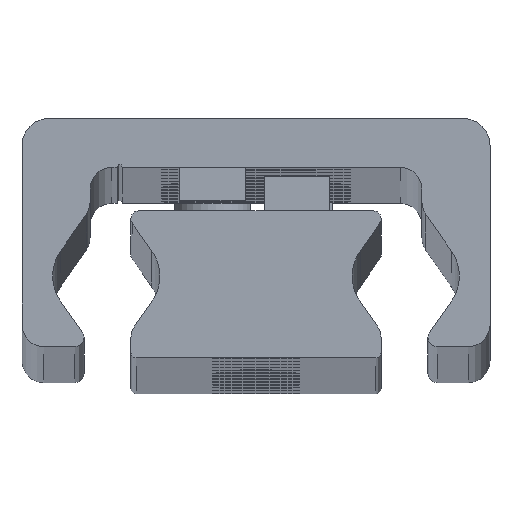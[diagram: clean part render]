
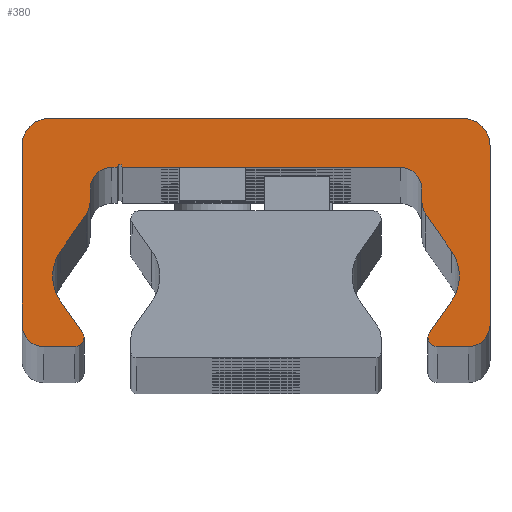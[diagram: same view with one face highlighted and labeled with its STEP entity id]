
A CAD part, top view. The second image highlights one B-rep face of the part: STEP entity #380.
In plain terms, the highlighted planar face has unit normal (0, 0, 1).
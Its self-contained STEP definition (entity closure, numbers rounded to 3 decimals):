
#380=ADVANCED_FACE('',(#1114),#1115,.T.);
#1114=FACE_OUTER_BOUND('',#1849,.T.);
#1115=PLANE('',#1850);
#1849=EDGE_LOOP('',(#4298,#4299,#4300,#4301,#4302,#4303,#4304,#4305,#4306,#4307,#4308,#4309,#4310,#4311,#4312,#4313,#4314,#4315,#4316,#4317,#4318,#4319,#4320,#4321,#4322,#4323,#4324,#4325,#4326,#4327));
#1850=AXIS2_PLACEMENT_3D('',#4328,#4329,#4330);
#4298=ORIENTED_EDGE('',*,*,#4799,.F.);
#4299=ORIENTED_EDGE('',*,*,#5142,.F.);
#4300=ORIENTED_EDGE('',*,*,#4785,.F.);
#4301=ORIENTED_EDGE('',*,*,#5141,.F.);
#4302=ORIENTED_EDGE('',*,*,#5137,.F.);
#4303=ORIENTED_EDGE('',*,*,#5134,.F.);
#4304=ORIENTED_EDGE('',*,*,#5131,.F.);
#4305=ORIENTED_EDGE('',*,*,#5128,.F.);
#4306=ORIENTED_EDGE('',*,*,#5125,.F.);
#4307=ORIENTED_EDGE('',*,*,#5122,.F.);
#4308=ORIENTED_EDGE('',*,*,#5119,.F.);
#4309=ORIENTED_EDGE('',*,*,#5116,.F.);
#4310=ORIENTED_EDGE('',*,*,#5113,.F.);
#4311=ORIENTED_EDGE('',*,*,#5110,.F.);
#4312=ORIENTED_EDGE('',*,*,#4791,.F.);
#4313=ORIENTED_EDGE('',*,*,#5108,.F.);
#4314=ORIENTED_EDGE('',*,*,#4793,.F.);
#4315=ORIENTED_EDGE('',*,*,#5107,.F.);
#4316=ORIENTED_EDGE('',*,*,#5103,.F.);
#4317=ORIENTED_EDGE('',*,*,#5100,.F.);
#4318=ORIENTED_EDGE('',*,*,#5097,.F.);
#4319=ORIENTED_EDGE('',*,*,#5094,.F.);
#4320=ORIENTED_EDGE('',*,*,#5091,.F.);
#4321=ORIENTED_EDGE('',*,*,#5088,.F.);
#4322=ORIENTED_EDGE('',*,*,#5085,.F.);
#4323=ORIENTED_EDGE('',*,*,#5082,.F.);
#4324=ORIENTED_EDGE('',*,*,#5079,.F.);
#4325=ORIENTED_EDGE('',*,*,#5076,.F.);
#4326=ORIENTED_EDGE('',*,*,#5073,.F.);
#4327=ORIENTED_EDGE('',*,*,#5070,.F.);
#4328=CARTESIAN_POINT('',(-0.023,14.187,1890.0));
#4329=DIRECTION('',(0.0,0.0,1.0));
#4330=DIRECTION('',(1.0,0.0,0.0));
#4785=EDGE_CURVE('',#5812,#5815,#5816,.T.);
#4791=EDGE_CURVE('',#5825,#5821,#5827,.T.);
#4793=EDGE_CURVE('',#5828,#5831,#5832,.T.);
#4799=EDGE_CURVE('',#5841,#5837,#5843,.T.);
#5070=EDGE_CURVE('',#5837,#6278,#6279,.T.);
#5073=EDGE_CURVE('',#6278,#6283,#6284,.T.);
#5076=EDGE_CURVE('',#6283,#6288,#6289,.T.);
#5079=EDGE_CURVE('',#6288,#6293,#6294,.T.);
#5082=EDGE_CURVE('',#6293,#6298,#6299,.T.);
#5085=EDGE_CURVE('',#6298,#6303,#6304,.T.);
#5088=EDGE_CURVE('',#6303,#6308,#6309,.T.);
#5091=EDGE_CURVE('',#6308,#6313,#6314,.T.);
#5094=EDGE_CURVE('',#6313,#6318,#6319,.T.);
#5097=EDGE_CURVE('',#6318,#6323,#6324,.T.);
#5100=EDGE_CURVE('',#6323,#6328,#6329,.T.);
#5103=EDGE_CURVE('',#6328,#6333,#6334,.T.);
#5107=EDGE_CURVE('',#6333,#5828,#6339,.T.);
#5108=EDGE_CURVE('',#5831,#5825,#6340,.T.);
#5110=EDGE_CURVE('',#5821,#6342,#6343,.T.);
#5113=EDGE_CURVE('',#6342,#6347,#6348,.T.);
#5116=EDGE_CURVE('',#6347,#6352,#6353,.T.);
#5119=EDGE_CURVE('',#6352,#6357,#6358,.T.);
#5122=EDGE_CURVE('',#6357,#6362,#6363,.T.);
#5125=EDGE_CURVE('',#6362,#6367,#6368,.T.);
#5128=EDGE_CURVE('',#6367,#6372,#6373,.T.);
#5131=EDGE_CURVE('',#6372,#6377,#6378,.T.);
#5134=EDGE_CURVE('',#6377,#6382,#6383,.T.);
#5137=EDGE_CURVE('',#6382,#6387,#6388,.T.);
#5141=EDGE_CURVE('',#6387,#5812,#6393,.T.);
#5142=EDGE_CURVE('',#5815,#5841,#6394,.T.);
#5812=VERTEX_POINT('',#7268);
#5815=VERTEX_POINT('',#7272);
#5816=CIRCLE('',#7273,0.85);
#5821=VERTEX_POINT('',#7279);
#5825=VERTEX_POINT('',#7284);
#5827=CIRCLE('',#7287,0.85);
#5828=VERTEX_POINT('',#7288);
#5831=VERTEX_POINT('',#7292);
#5832=CIRCLE('',#7293,4.);
#5837=VERTEX_POINT('',#7299);
#5841=VERTEX_POINT('',#7304);
#5843=CIRCLE('',#7307,4.);
#6278=VERTEX_POINT('',#7864);
#6279=CIRCLE('',#7865,4.);
#6283=VERTEX_POINT('',#7870);
#6284=LINE('',#7871,#7872);
#6288=VERTEX_POINT('',#7878);
#6289=CIRCLE('',#7879,2.);
#6293=VERTEX_POINT('',#7884);
#6294=LINE('',#7885,#7886);
#6298=VERTEX_POINT('',#7892);
#6299=CIRCLE('',#7893,2.0);
#6303=VERTEX_POINT('',#7898);
#6304=LINE('',#7899,#7900);
#6308=VERTEX_POINT('',#7906);
#6309=CIRCLE('',#7907,0.25);
#6313=VERTEX_POINT('',#7912);
#6314=LINE('',#7913,#7914);
#6318=VERTEX_POINT('',#7920);
#6319=CIRCLE('',#7921,2.0);
#6323=VERTEX_POINT('',#7926);
#6324=LINE('',#7927,#7928);
#6328=VERTEX_POINT('',#7934);
#6329=CIRCLE('',#7935,2.0);
#6333=VERTEX_POINT('',#7940);
#6334=LINE('',#7941,#7942);
#6339=CIRCLE('',#7949,4.);
#6340=LINE('',#7950,#7951);
#6342=VERTEX_POINT('',#7954);
#6343=CIRCLE('',#7955,0.85);
#6347=VERTEX_POINT('',#7960);
#6348=LINE('',#7961,#7962);
#6352=VERTEX_POINT('',#7968);
#6353=CIRCLE('',#7969,2.);
#6357=VERTEX_POINT('',#7974);
#6358=LINE('',#7975,#7976);
#6362=VERTEX_POINT('',#7982);
#6363=CIRCLE('',#7983,2.5);
#6367=VERTEX_POINT('',#7988);
#6368=LINE('',#7989,#7990);
#6372=VERTEX_POINT('',#7996);
#6373=CIRCLE('',#7997,2.5);
#6377=VERTEX_POINT('',#8002);
#6378=LINE('',#8003,#8004);
#6382=VERTEX_POINT('',#8010);
#6383=CIRCLE('',#8011,2.);
#6387=VERTEX_POINT('',#8016);
#6388=LINE('',#8017,#8018);
#6393=CIRCLE('',#8025,0.85);
#6394=LINE('',#8026,#8027);
#7268=CARTESIAN_POINT('',(15.8,1.859,1890.0));
#7272=CARTESIAN_POINT('',(15.922,2.298,1890.0));
#7273=AXIS2_PLACEMENT_3D('',#8883,#8884,#8885);
#7279=CARTESIAN_POINT('',(-15.8,1.859,1890.0));
#7284=CARTESIAN_POINT('',(-15.922,2.298,1890.0));
#7287=AXIS2_PLACEMENT_3D('',#8895,#8896,#8897);
#7288=CARTESIAN_POINT('',(-18.688,7.509,1890.0));
#7292=CARTESIAN_POINT('',(-17.964,5.214,1890.0));
#7293=AXIS2_PLACEMENT_3D('',#8899,#8900,#8901);
#7299=CARTESIAN_POINT('',(18.688,7.509,1890.0));
#7304=CARTESIAN_POINT('',(17.964,5.214,1890.0));
#7307=AXIS2_PLACEMENT_3D('',#8911,#8912,#8913);
#7864=CARTESIAN_POINT('',(17.964,9.803,1890.0));
#7865=AXIS2_PLACEMENT_3D('',#9480,#9481,#9482);
#7870=CARTESIAN_POINT('',(15.612,13.163,1890.0));
#7871=CARTESIAN_POINT('',(15.612,13.163,1890.0));
#7872=VECTOR('',#9487,1.0);
#7878=CARTESIAN_POINT('',(15.25,14.31,1890.0));
#7879=AXIS2_PLACEMENT_3D('',#9490,#9491,#9492);
#7884=CARTESIAN_POINT('',(15.25,15.509,1890.0));
#7885=CARTESIAN_POINT('',(15.25,15.509,1890.0));
#7886=VECTOR('',#9497,1.0);
#7892=CARTESIAN_POINT('',(13.25,17.509,1890.0));
#7893=AXIS2_PLACEMENT_3D('',#9500,#9501,#9502);
#7898=CARTESIAN_POINT('',(-12.25,17.509,1890.0));
#7899=CARTESIAN_POINT('',(-12.25,17.509,1890.0));
#7900=VECTOR('',#9507,1.0);
#7906=CARTESIAN_POINT('',(-12.75,17.509,1890.0));
#7907=AXIS2_PLACEMENT_3D('',#9510,#9511,#9512);
#7912=CARTESIAN_POINT('',(-13.25,17.509,1890.0));
#7913=CARTESIAN_POINT('',(-13.25,17.509,1890.0));
#7914=VECTOR('',#9517,1.0);
#7920=CARTESIAN_POINT('',(-15.25,15.509,1890.0));
#7921=AXIS2_PLACEMENT_3D('',#9520,#9521,#9522);
#7926=CARTESIAN_POINT('',(-15.25,14.31,1890.0));
#7927=CARTESIAN_POINT('',(-15.25,14.31,1890.0));
#7928=VECTOR('',#9527,1.0);
#7934=CARTESIAN_POINT('',(-15.612,13.163,1890.0));
#7935=AXIS2_PLACEMENT_3D('',#9530,#9531,#9532);
#7940=CARTESIAN_POINT('',(-17.964,9.803,1890.0));
#7941=CARTESIAN_POINT('',(-17.964,9.803,1890.0));
#7942=VECTOR('',#9537,1.0);
#7949=AXIS2_PLACEMENT_3D('',#9543,#9544,#9545);
#7950=CARTESIAN_POINT('',(-15.922,2.298,1890.0));
#7951=VECTOR('',#9546,1.0);
#7954=CARTESIAN_POINT('',(-16.65,1.009,1890.0));
#7955=AXIS2_PLACEMENT_3D('',#9548,#9549,#9550);
#7960=CARTESIAN_POINT('',(-19.5,1.009,1890.0));
#7961=CARTESIAN_POINT('',(-19.5,1.009,1890.0));
#7962=VECTOR('',#9555,1.0);
#7968=CARTESIAN_POINT('',(-21.5,3.009,1890.0));
#7969=AXIS2_PLACEMENT_3D('',#9558,#9559,#9560);
#7974=CARTESIAN_POINT('',(-21.5,19.509,1890.0));
#7975=CARTESIAN_POINT('',(-21.5,19.509,1890.0));
#7976=VECTOR('',#9565,1.0);
#7982=CARTESIAN_POINT('',(-19.0,22.009,1890.0));
#7983=AXIS2_PLACEMENT_3D('',#9568,#9569,#9570);
#7988=CARTESIAN_POINT('',(19.0,22.009,1890.0));
#7989=CARTESIAN_POINT('',(19.0,22.009,1890.0));
#7990=VECTOR('',#9575,1.0);
#7996=CARTESIAN_POINT('',(21.5,19.509,1890.0));
#7997=AXIS2_PLACEMENT_3D('',#9578,#9579,#9580);
#8002=CARTESIAN_POINT('',(21.5,3.009,1890.0));
#8003=CARTESIAN_POINT('',(21.5,3.009,1890.0));
#8004=VECTOR('',#9585,1.0);
#8010=CARTESIAN_POINT('',(19.5,1.009,1890.0));
#8011=AXIS2_PLACEMENT_3D('',#9588,#9589,#9590);
#8016=CARTESIAN_POINT('',(16.65,1.009,1890.0));
#8017=CARTESIAN_POINT('',(16.65,1.009,1890.0));
#8018=VECTOR('',#9595,1.0);
#8025=AXIS2_PLACEMENT_3D('',#9601,#9602,#9603);
#8026=CARTESIAN_POINT('',(17.964,5.214,1890.0));
#8027=VECTOR('',#9604,1.0);
#8883=CARTESIAN_POINT('',(16.65,1.859,1890.0));
#8884=DIRECTION('',(0.0,0.0,-1.0));
#8885=DIRECTION('',(1.0,0.0,0.0));
#8895=CARTESIAN_POINT('',(-16.65,1.859,1890.0));
#8896=DIRECTION('',(0.0,0.0,-1.0));
#8897=DIRECTION('',(1.0,0.0,0.0));
#8899=CARTESIAN_POINT('',(-14.688,7.509,1890.0));
#8900=DIRECTION('',(0.0,0.0,1.0));
#8901=DIRECTION('',(1.0,0.0,0.0));
#8911=CARTESIAN_POINT('',(14.688,7.509,1890.0));
#8912=DIRECTION('',(0.0,0.0,1.0));
#8913=DIRECTION('',(1.0,0.0,0.0));
#9480=CARTESIAN_POINT('',(14.688,7.509,1890.0));
#9481=DIRECTION('',(0.0,0.0,1.0));
#9482=DIRECTION('',(1.0,0.0,0.0));
#9487=DIRECTION('',(-0.574,0.819,0.0));
#9490=CARTESIAN_POINT('',(17.25,14.31,1890.0));
#9491=DIRECTION('',(0.0,0.0,-1.0));
#9492=DIRECTION('',(1.0,0.0,0.0));
#9497=DIRECTION('',(0.0,1.0,0.0));
#9500=CARTESIAN_POINT('',(13.25,15.509,1890.0));
#9501=DIRECTION('',(0.0,0.0,1.0));
#9502=DIRECTION('',(1.0,0.0,0.0));
#9507=DIRECTION('',(-1.0,-0.0,-0.0));
#9510=CARTESIAN_POINT('',(-12.5,17.509,1890.0));
#9511=DIRECTION('',(0.0,0.0,1.0));
#9512=DIRECTION('',(1.0,0.0,0.0));
#9517=DIRECTION('',(-1.0,-0.0,-0.0));
#9520=CARTESIAN_POINT('',(-13.25,15.509,1890.0));
#9521=DIRECTION('',(0.0,0.0,1.0));
#9522=DIRECTION('',(1.0,0.0,0.0));
#9527=DIRECTION('',(-0.0,-1.0,-0.0));
#9530=CARTESIAN_POINT('',(-17.25,14.31,1890.0));
#9531=DIRECTION('',(0.0,0.0,-1.0));
#9532=DIRECTION('',(1.0,0.0,0.0));
#9537=DIRECTION('',(-0.574,-0.819,-0.0));
#9543=CARTESIAN_POINT('',(-14.688,7.509,1890.0));
#9544=DIRECTION('',(0.0,0.0,1.0));
#9545=DIRECTION('',(1.0,0.0,0.0));
#9546=DIRECTION('',(0.574,-0.819,0.0));
#9548=CARTESIAN_POINT('',(-16.65,1.859,1890.0));
#9549=DIRECTION('',(0.0,0.0,-1.0));
#9550=DIRECTION('',(1.0,0.0,0.0));
#9555=DIRECTION('',(-1.0,-0.0,-0.0));
#9558=CARTESIAN_POINT('',(-19.5,3.009,1890.0));
#9559=DIRECTION('',(0.0,0.0,-1.0));
#9560=DIRECTION('',(1.0,0.0,0.0));
#9565=DIRECTION('',(0.0,1.0,0.0));
#9568=CARTESIAN_POINT('',(-19.0,19.509,1890.0));
#9569=DIRECTION('',(0.0,0.0,-1.0));
#9570=DIRECTION('',(1.0,0.0,0.0));
#9575=DIRECTION('',(1.0,0.0,0.0));
#9578=CARTESIAN_POINT('',(19.0,19.509,1890.0));
#9579=DIRECTION('',(0.0,0.0,-1.0));
#9580=DIRECTION('',(1.0,0.0,0.0));
#9585=DIRECTION('',(-0.0,-1.0,-0.0));
#9588=CARTESIAN_POINT('',(19.5,3.009,1890.0));
#9589=DIRECTION('',(0.0,0.0,-1.0));
#9590=DIRECTION('',(1.0,0.0,0.0));
#9595=DIRECTION('',(-1.0,-0.0,-0.0));
#9601=CARTESIAN_POINT('',(16.65,1.859,1890.0));
#9602=DIRECTION('',(0.0,0.0,-1.0));
#9603=DIRECTION('',(1.0,0.0,0.0));
#9604=DIRECTION('',(0.574,0.819,0.0));
